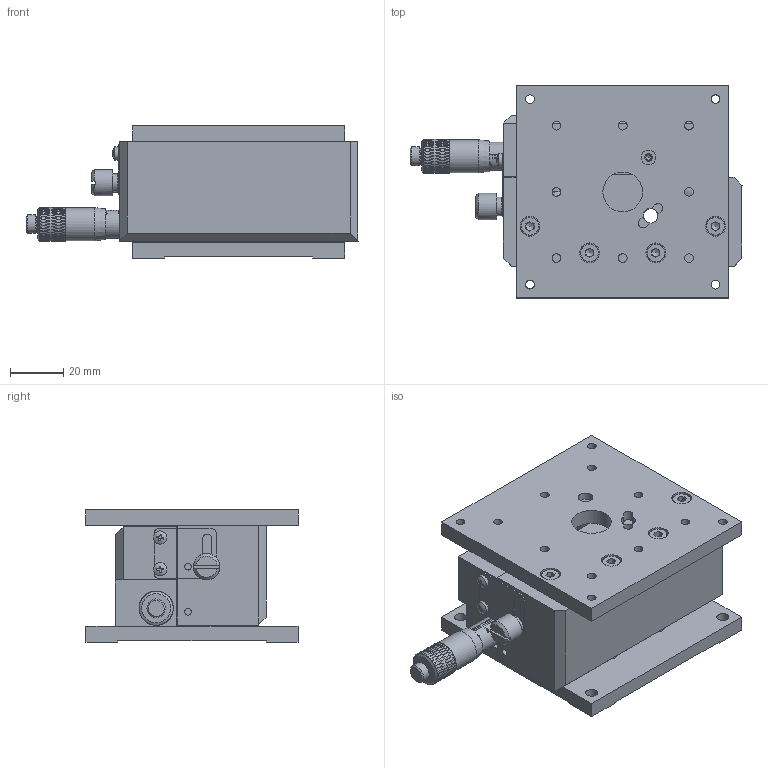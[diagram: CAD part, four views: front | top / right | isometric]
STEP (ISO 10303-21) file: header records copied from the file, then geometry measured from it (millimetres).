
FILE_DESCRIPTION (( 'STEP AP203' ), '1' );
FILE_NAME ('BLZ80.STEP', '2024-07-08T05:50:14', ( 'Windows User' ), ( 'P R C' ), 'SwSTEP 2.0', 'SolidWorks 2024', '' );
FILE_SCHEMA (( 'CONFIG_CONTROL_DESIGN' ));
Length unit declared in the file: millimetre
Products named in the file (1): BLZ80
Bounding box: 125.27 x 80 x 50 mm (x, y, z)
Volume: 223807.9 mm3; surface area: 87248 mm2
Topology: 31 solids, 31 shells, 1123 faces, 2677 edges, 1679 vertices
Faces by surface type: plane 597, cylinder 386, cone 79, bspline 36, torus 17, sphere 8
Full cylindrical faces by diameter (mm): 2.05 x3, 2.5 x14, 2.6 x2, 2.9 x1, 2.95 x9, 3 x10, 3.3 x31, 4 x11, 4.5 x14, 5 x7, 5.1 x1, 5.5 x3, 6 x9, 6.05 x1, 7 x12, 7.5 x5, 8 x8, 8.156 x4, 8.5 x2, 9.5 x2, 10 x1, 10.5 x1, 12.5 x1, 15 x1
Entity records: 35406 total; most frequent: CARTESIAN_POINT 11645, DIRECTION 4753, ORIENTED_EDGE 4670, EDGE_CURVE 2335, AXIS2_PLACEMENT_3D 1802, VERTEX_POINT 1586, EDGE_LOOP 1555, FACE_OUTER_BOUND 1278
